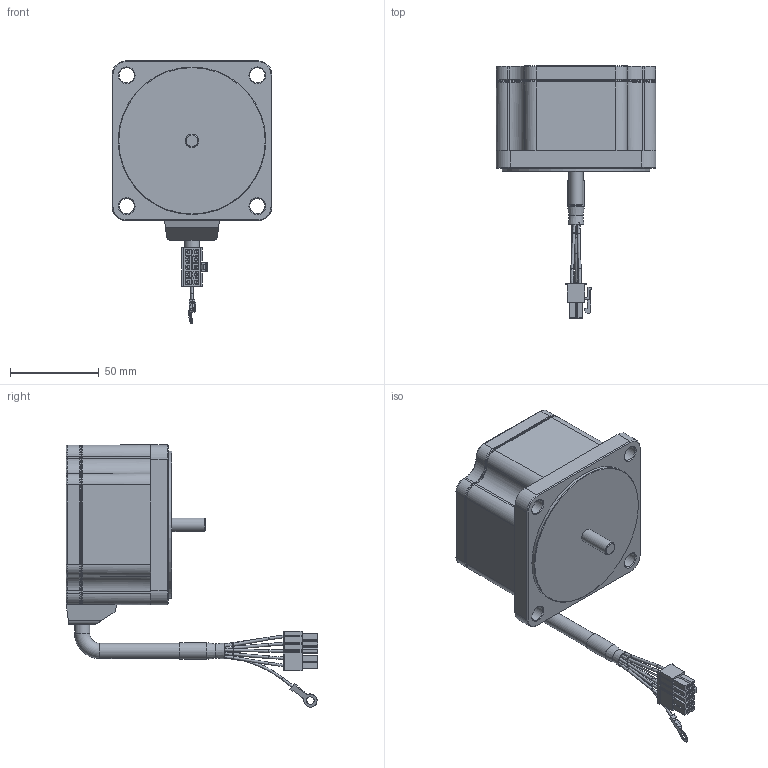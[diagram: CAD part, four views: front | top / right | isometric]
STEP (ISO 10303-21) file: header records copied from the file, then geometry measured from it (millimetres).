
FILE_DESCRIPTION((''),'2;1');
FILE_NAME('E:\2공장-도면\3D\STEP FILE\K9BH90N□.stp','2014-08-18T12:33:49',('輺'),(''),'Autodesk Inventor 2008','Autodesk Inventor 2008','');
FILE_SCHEMA(('CONFIG_CONTROL_DESIGN'));
Length unit declared in the file: millimetre
Products named in the file (1): 부품47
Bounding box: 90 x 141.6 x 147.63 mm (x, y, z)
Volume: 436262.5 mm3; surface area: 59045.6 mm2
Topology: 1 solids, 2 shells, 742 faces, 1997 edges, 1263 vertices
Faces by surface type: plane 520, bspline 91, cylinder 85, cone 27, torus 19
Full cylindrical faces by diameter (mm): 1.45 x3, 4.3 x1, 7.6 x1, 8.5 x6, 9 x1, 9.4 x1, 12 x1, 83 x1, 86.5 x1
Entity records: 27503 total; most frequent: CARTESIAN_POINT 8660, ORIENTED_EDGE 3852, DIRECTION 3460, EDGE_CURVE 1926, VECTOR 1478, LINE 1478, VERTEX_POINT 1249, AXIS2_PLACEMENT_3D 991
